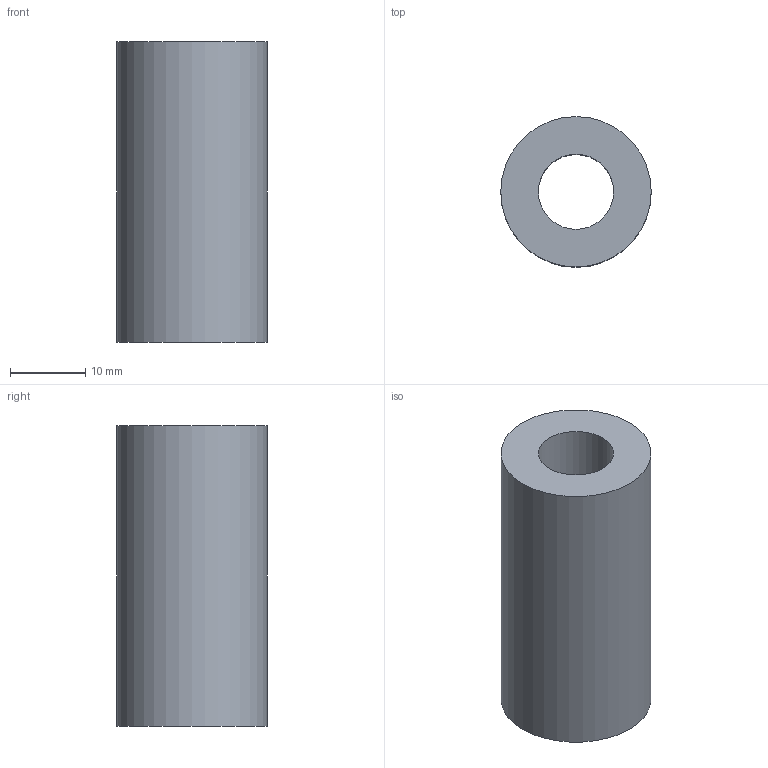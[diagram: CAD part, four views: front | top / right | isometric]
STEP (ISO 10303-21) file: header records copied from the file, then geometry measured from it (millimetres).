
FILE_DESCRIPTION( ( 'Unknown' ), '1' );
FILE_NAME( 'F:/navkite transat/construction/2016/3D ET ASSEMBLAGES/AMI/AMI 23.stp', 'Unknown', ( 'GMA' ), ( 'Unknown' ), 'XStep 1.0', 'Unknown', ' ' );
FILE_SCHEMA( ( 'automotive_design' ) );
Length unit declared in the file: millimetre
Products named in the file (1): 1
Bounding box: 20 x 20 x 40 mm (x, y, z)
Volume: 9424.8 mm3; surface area: 4241.2 mm2
Topology: 1 solids, 1 shells, 4 faces, 6 edges, 4 vertices
Faces by surface type: cylinder 2, plane 2
Full cylindrical faces by diameter (mm): 10 x1, 20 x1
Entity records: 136 total; most frequent: DIRECTION 18, CARTESIAN_POINT 13, AXIS2_PLACEMENT_3D 9, EDGE_LOOP 8, ORIENTED_EDGE 8, FACE_OUTER_BOUND 6, STYLED_ITEM 4, PRESENTATION_STYLE_ASSIGNMENT 4
